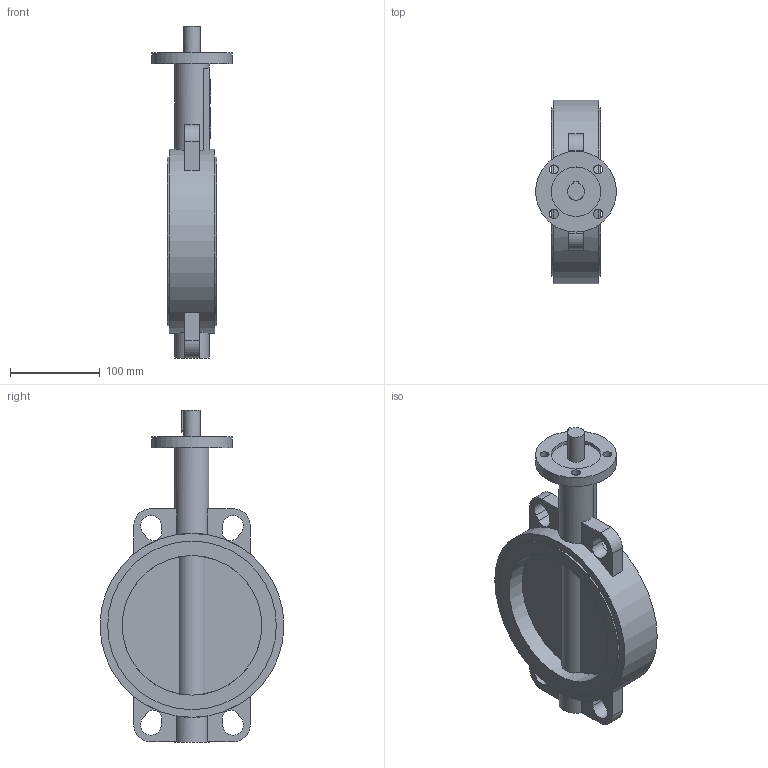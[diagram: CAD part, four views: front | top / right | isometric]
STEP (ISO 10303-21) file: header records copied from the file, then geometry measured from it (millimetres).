
FILE_DESCRIPTION(('STEP AP203'), '1');
FILE_NAME('Çàòâîð 017W.Z(ñòàëü) DN150 PN10_16 áåç èñï. ìåõ-ìà', '', ('UNSPECIFIED'), ('UNSPECIFIED'), 'ASCON STEP Converter 1.6', 'ASCON Math Kernel', '');
FILE_SCHEMA(('CONFIG_CONTROL_DESIGN'));
Length unit declared in the file: millimetre
Bounding box: 90 x 205 x 370 mm (x, y, z)
Volume: 1364264.6 mm3; surface area: 171989.8 mm2
Topology: 1 solids, 1 shells, 721 faces, 2078 edges, 1385 vertices
Faces by surface type: cylinder 527, plane 194
Full cylindrical faces by diameter (mm): 10 x4, 18.9 x1, 38 x2, 55 x1, 90 x1, 155.6 x2, 188 x2, 205 x1
Entity records: 30489 total; most frequent: CARTESIAN_POINT 4700, DIRECTION 4565, ORIENTED_EDGE 4128, EDGE_CURVE 2064, AXIS2_PLACEMENT_3D 1790, VERTEX_POINT 1385, CIRCLE 1068, LINE 985
